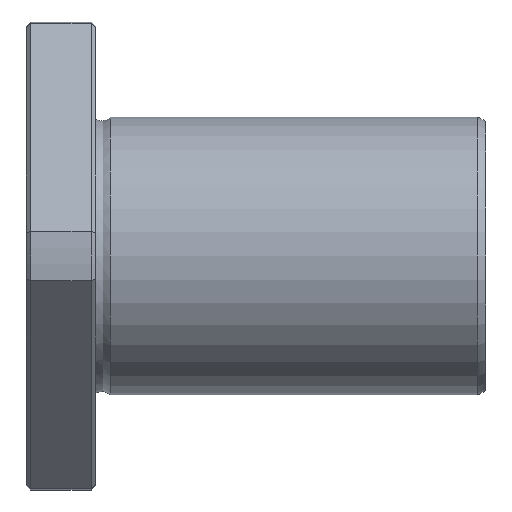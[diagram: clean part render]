
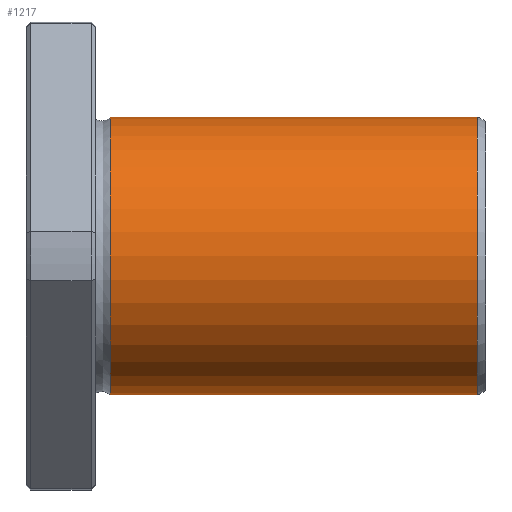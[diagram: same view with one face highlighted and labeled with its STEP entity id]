
A CAD part, front view. The second image highlights one B-rep face of the part: STEP entity #1217.
In plain terms, the highlighted cylindrical face has radius 16 mm (diameter 32 mm), a full revolution.
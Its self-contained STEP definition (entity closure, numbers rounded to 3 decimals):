
#1183=CARTESIAN_POINT('',(51.999,0.0,16.));
#1184=VERTEX_POINT('',#1183);
#1185=CARTESIAN_POINT('',(51.999,0.0,0.0));
#1186=DIRECTION('',(-1.0,0.0,0.0));
#1187=DIRECTION('',(0.0,0.0,1.0));
#1188=AXIS2_PLACEMENT_3D('',#1185,#1186,#1187);
#1189=CIRCLE('',#1188,16.);
#1190=EDGE_CURVE('',#1184,#1184,#1189,.T.);
#1198=CARTESIAN_POINT('',(30.859,0.0,0.0));
#1199=DIRECTION('',(-1.0,0.0,0.0));
#1200=DIRECTION('',(0.0,0.0,1.0));
#1201=AXIS2_PLACEMENT_3D('',#1198,#1199,#1200);
#1202=CYLINDRICAL_SURFACE('',#1201,16.);
#1203=CARTESIAN_POINT('',(9.72,0.0,16.0));
#1204=VERTEX_POINT('',#1203);
#1205=CARTESIAN_POINT('',(9.72,0.0,0.0));
#1206=DIRECTION('',(-1.0,0.0,0.0));
#1207=DIRECTION('',(0.0,0.0,1.0));
#1208=AXIS2_PLACEMENT_3D('',#1205,#1206,#1207);
#1209=CIRCLE('',#1208,16.0);
#1210=EDGE_CURVE('',#1204,#1204,#1209,.T.);
#1211=ORIENTED_EDGE('',*,*,#1210,.F.);
#1212=EDGE_LOOP('',(#1211));
#1213=FACE_OUTER_BOUND('',#1212,.T.);
#1214=ORIENTED_EDGE('',*,*,#1190,.T.);
#1215=EDGE_LOOP('',(#1214));
#1216=FACE_BOUND('',#1215,.T.);
#1217=ADVANCED_FACE('',(#1213,#1216),#1202,.T.);
